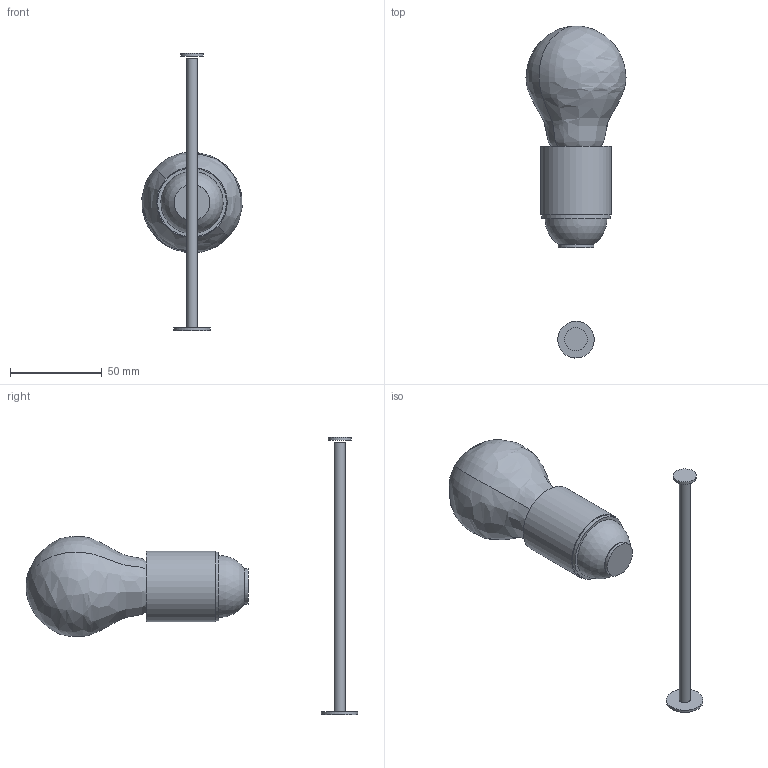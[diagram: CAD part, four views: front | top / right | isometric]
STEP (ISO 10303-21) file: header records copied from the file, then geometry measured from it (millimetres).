
FILE_DESCRIPTION(/* description */ (''),/* implementation_level */ '2;1');
FILE_NAME(/* name */ 'HAZARD.stp',/* time_stamp */ '2023-07-05T11:58:59+02:00',/* author */ ('n.bisotti'),/* organization */ (''),/* preprocessor_version */ 'ST-DEVELOPER v19.2',/* originating_system */ 'Autodesk Inventor 2023',/* authorisation */ '');
FILE_SCHEMA (('AUTOMOTIVE_DESIGN { 1 0 10303 214 3 1 1 }','TECHNICAL_DATA_PACKAGING','MODEL_BASED_INTEGRATED_MANUFACTURING_SCHEMA','AP242_MANAGED_MODEL_BASED_3D_ENGINEERING_MIM_LF { 1 0 10303 442 3 1 4 }'));
Length unit declared in the file: centimetre
Products named in the file (1): Parte2
Bounding box: 54.73 x 181.18 x 151.5 mm (x, y, z)
Volume: 128282.6 mm3; surface area: 38486.6 mm2
Topology: 7 solids, 7 shells, 170 faces, 439 edges, 281 vertices
Faces by surface type: plane 79, cylinder 45, bspline 28, cone 9, torus 6, sphere 3
Full cylindrical faces by diameter (mm): 0.6 x1, 1.2 x1, 3.6 x1, 6 x2, 9.7 x5, 11 x1, 12.5 x1, 12.8 x1, 13.6 x1, 14.4 x1, 16.2 x1, 19.5 x2, 20 x1, 26 x2, 27.5 x1, 28 x1, 30 x1, 35 x1, 35.1 x1, 36.1 x1, 37.5 x1, 38.5 x1
Entity records: 28146 total; most frequent: CARTESIAN_POINT 23858, ORIENTED_EDGE 862, DIRECTION 779, EDGE_CURVE 431, AXIS2_PLACEMENT_3D 292, VERTEX_POINT 281, EDGE_LOOP 202, LINE 195
